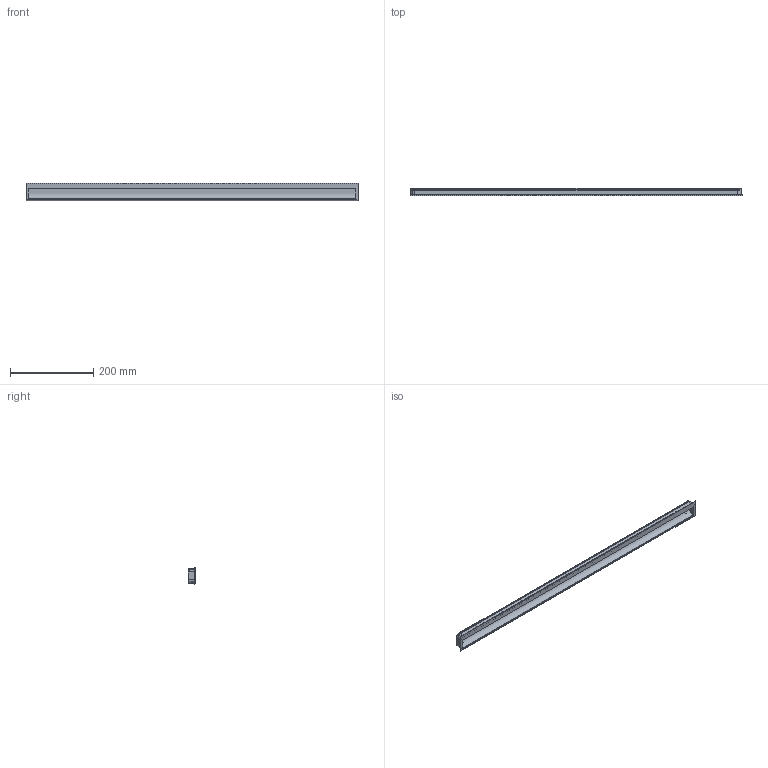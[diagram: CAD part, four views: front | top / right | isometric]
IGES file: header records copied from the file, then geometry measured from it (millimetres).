
Start section: Data from Parasolid IGES Translator 15.0.47, Copyright(c) 2006 Siemens P LM Software. All Rights Reserved.
Global section: file name: 115310.igs; native system:  By UGS Corp.; preprocessor: XPlus GENERIC/IGES 3.0; author: Noname; organization: Noname; date: 20140122.180916; units: millimetre
Bounding box: 800 x 17.5 x 43.25 mm (x, y, z)
Surface area: 131821.6 mm2 (no closed solid volume)
Topology: 0 solids, 0 shells, 33 faces, 168 edges, 166 vertices
Faces by surface type: extrusion 25, revolution 8
